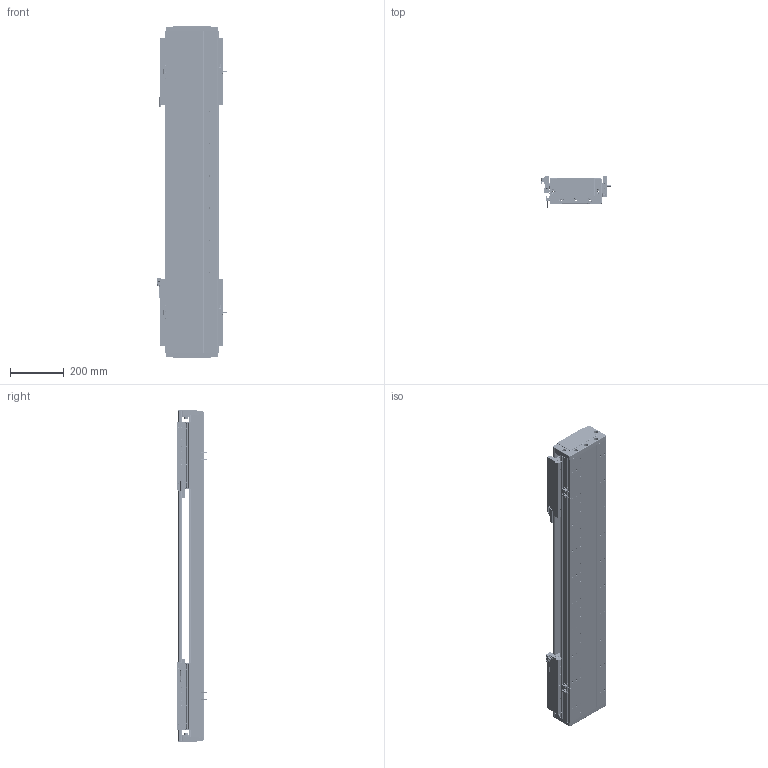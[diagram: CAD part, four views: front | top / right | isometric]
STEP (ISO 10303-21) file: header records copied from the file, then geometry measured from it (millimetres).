
FILE_DESCRIPTION (( 'STEP AP203' ), '1' );
FILE_NAME ('DA-C195-2-C3-T620-C010-0.2 眻盄萇儂.STEP', '2025-08-14T02:25:05', ( '' ), ( '' ), 'SwSTEP 2.0', 'SolidWorks 2019', '' );
FILE_SCHEMA (( 'CONFIG_CONTROL_DESIGN' ));
Length unit declared in the file: millimetre
Products named in the file (16): PM-Y65嫖萇羲壽郪璃; DKW-GYP-ZJ-00 笢潔嫖萇覜茼え; PM-T45ㄗ侂狟ㄘ; 葩璃 DA95-GT-T-00; DKW-KGZ-ZJ-00 中间光电开关支架; DA-C195-2-C3-T620-C010-0.2 眻盄萇儂; DA95-HXJ-00 遣喳砎蝶; DKW168-HXJ-ZJ-00 笢潔滅袉砎蝶; CU195-C3賑輸-俋楷; MS200 棠掑喜S315-T240; IU-CU195-L 菁釱絳寢; 66156-0001-003-00 裔啣; IU-CU195-L-00 菁釱(L1200); LMT黍杅芛; DA165-GYP-00 光电感应片(默认); DA195-DG-H-00  端盖（压铸镂空版）
Assembly tree (28 placements, depth 3):
  DA-C195-2-C3-T620-C010-0.2 眻盄萇儂
    IU-CU195-L 菁釱絳寢
      IU-CU195-L-00 菁釱(L1200)
      葩璃 DA95-GT-T-00  x4
    LMT黍杅芛  x2
    MS200 棠掑喜S315-T240
    PM-T45ㄗ侂狟ㄘ  x4
    DA165-GYP-00 光电感应片(默认)  x2
    DA195-DG-H-00  端盖（压铸镂空版）  x2
    DA95-HXJ-00 遣喳砎蝶  x4
    PM-Y65嫖萇羲壽郪璃
    66156-0001-003-00 裔啣
    DKW168-HXJ-ZJ-00 笢潔滅袉砎蝶
    DKW-GYP-ZJ-00 笢潔嫖萇覜茼え
    DKW-KGZ-ZJ-00 中间光电开关支架
    CU195-C3賑輸-俋楷  x2
Bounding box: 258.2 x 115.6 x 1240 mm (x, y, z)
Volume: 10622391.2 mm3; surface area: 2899578.4 mm2
Topology: 146 solids, 218 shells, 7770 faces, 19648 edges, 11959 vertices
Faces by surface type: cylinder 3200, plane 2786, cone 914, bspline 718, torus 80, sphere 72
Entity records: 155139 total; most frequent: CARTESIAN_POINT 47322, ORIENTED_EDGE 22482, DIRECTION 21432, EDGE_CURVE 11241, AXIS2_PLACEMENT_3D 7815, VERTEX_POINT 7112, VECTOR 5802, LINE 5802
